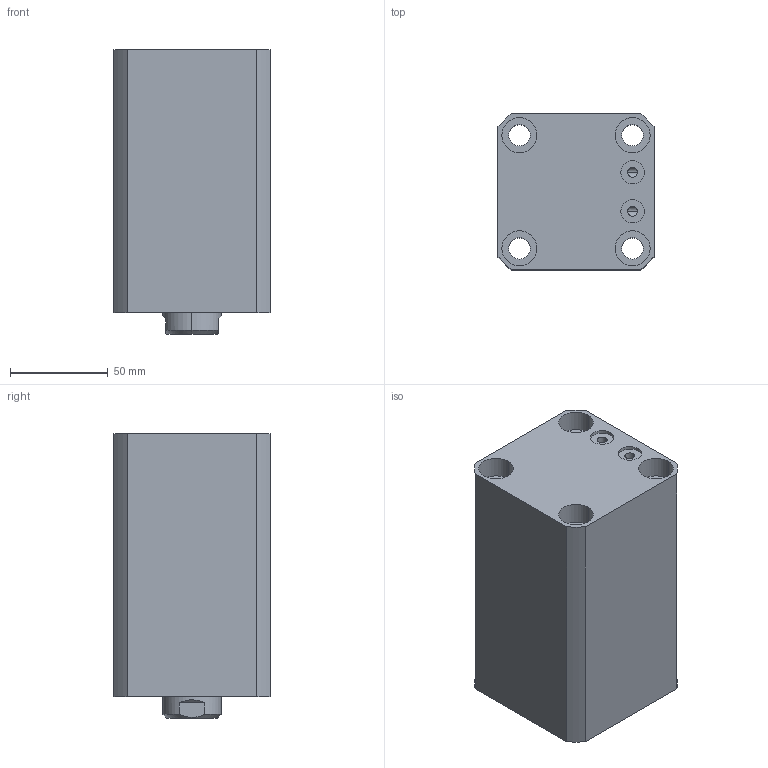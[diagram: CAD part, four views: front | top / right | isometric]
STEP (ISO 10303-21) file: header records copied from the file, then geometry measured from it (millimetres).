
FILE_DESCRIPTION (( 'STEP AP203' ), '1' );
FILE_NAME ('CHTB-SDMB50-75N.STEP', '2018-05-19T06:39:13', ( '' ), ( '' ), 'SwSTEP 2.0', 'SolidWorks 2015', '' );
FILE_SCHEMA (( 'CONFIG_CONTROL_DESIGN' ));
Length unit declared in the file: millimetre
Products named in the file (5): CHTM-SDMA50QG; 活塞杆SDMB50-75N; 掛极SDMB50-75N; CHTB-SDMB50-75N; M6
Assembly tree (5 placements, depth 2):
  CHTB-SDMB50-75N
    掛极SDMB50-75N
    活塞杆SDMB50-75N
    M6  x2
    CHTM-SDMA50QG
Bounding box: 80 x 80 x 146 mm (x, y, z)
Volume: 696678.9 mm3; surface area: 130177.9 mm2
Topology: 5 solids, 5 shells, 263 faces, 693 edges, 458 vertices
Faces by surface type: cylinder 135, plane 55, cone 31, bspline 26, torus 16
Entity records: 13963 total; most frequent: CARTESIAN_POINT 8102, ORIENTED_EDGE 1188, DIRECTION 1016, EDGE_CURVE 594, AXIS2_PLACEMENT_3D 416, VERTEX_POINT 397, EDGE_LOOP 269, ADVANCED_FACE 228
